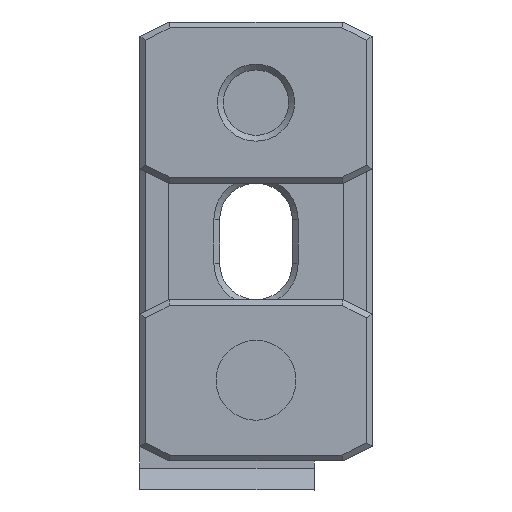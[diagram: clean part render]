
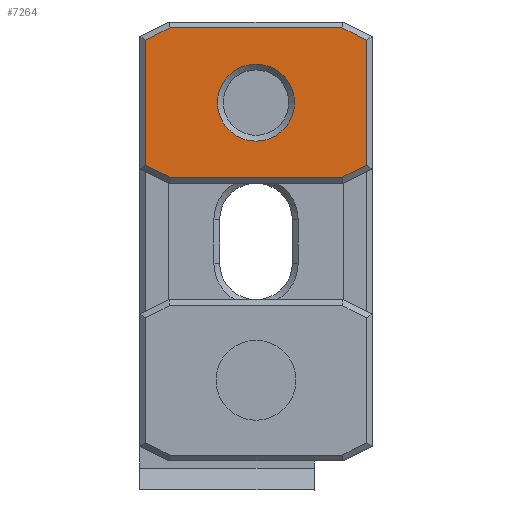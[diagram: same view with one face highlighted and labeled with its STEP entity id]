
A CAD part, left-side view. The second image highlights one B-rep face of the part: STEP entity #7264.
In plain terms, the highlighted planar face has unit normal (-1, 0, 0).
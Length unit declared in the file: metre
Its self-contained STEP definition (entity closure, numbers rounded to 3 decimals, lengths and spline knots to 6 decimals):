
#325=CIRCLE('',#7752,0.00265);
#2703=ORIENTED_EDGE('',*,*,#3793,.F.);
#2704=ORIENTED_EDGE('',*,*,#3795,.F.);
#2705=ORIENTED_EDGE('',*,*,#3796,.F.);
#2706=ORIENTED_EDGE('',*,*,#3797,.F.);
#2707=ORIENTED_EDGE('',*,*,#3798,.F.);
#2708=ORIENTED_EDGE('',*,*,#3799,.F.);
#2709=ORIENTED_EDGE('',*,*,#3800,.F.);
#2710=ORIENTED_EDGE('',*,*,#3801,.F.);
#2711=ORIENTED_EDGE('',*,*,#3802,.F.);
#3793=EDGE_CURVE('',#4479,#4479,#325,.T.);
#3795=EDGE_CURVE('',#4481,#4482,#5123,.T.);
#3796=EDGE_CURVE('',#4483,#4481,#5124,.T.);
#3797=EDGE_CURVE('',#4484,#4483,#5125,.T.);
#3798=EDGE_CURVE('',#4485,#4484,#5126,.T.);
#3799=EDGE_CURVE('',#4486,#4485,#5127,.T.);
#3800=EDGE_CURVE('',#4487,#4486,#5128,.T.);
#3801=EDGE_CURVE('',#4488,#4487,#5129,.T.);
#3802=EDGE_CURVE('',#4482,#4488,#5130,.T.);
#4479=VERTEX_POINT('',#13403);
#4481=VERTEX_POINT('',#13408);
#4482=VERTEX_POINT('',#13409);
#4483=VERTEX_POINT('',#13411);
#4484=VERTEX_POINT('',#13413);
#4485=VERTEX_POINT('',#13415);
#4486=VERTEX_POINT('',#13417);
#4487=VERTEX_POINT('',#13419);
#4488=VERTEX_POINT('',#13421);
#5123=LINE('',#13407,#5771);
#5124=LINE('',#13410,#5772);
#5125=LINE('',#13412,#5773);
#5126=LINE('',#13414,#5774);
#5127=LINE('',#13416,#5775);
#5128=LINE('',#13418,#5776);
#5129=LINE('',#13420,#5777);
#5130=LINE('',#13422,#5778);
#5771=VECTOR('',#9334,1.);
#5772=VECTOR('',#9335,1.);
#5773=VECTOR('',#9336,1.);
#5774=VECTOR('',#9337,1.);
#5775=VECTOR('',#9338,1.);
#5776=VECTOR('',#9339,1.);
#5777=VECTOR('',#9340,1.);
#5778=VECTOR('',#9341,1.);
#6204=EDGE_LOOP('',(#2703));
#6205=EDGE_LOOP('',(#2704,#2705,#2706,#2707,#2708,#2709,#2710,#2711));
#6636=FACE_BOUND('',#6204,.T.);
#6637=FACE_BOUND('',#6205,.T.);
#6857=PLANE('',#7754);
#7264=ADVANCED_FACE('',(#6636,#6637),#6857,.T.);
#7752=AXIS2_PLACEMENT_3D('',#13402,#9328,#9329);
#7754=AXIS2_PLACEMENT_3D('',#13406,#9332,#9333);
#9328=DIRECTION('',(-1.,0.,0.));
#9329=DIRECTION('',(0.,0.,-1.));
#9332=DIRECTION('',(-1.,0.,0.));
#9333=DIRECTION('',(0.,0.,-1.));
#9334=DIRECTION('',(0.,1.,0.));
#9335=DIRECTION('',(0.,0.894,-0.447));
#9336=DIRECTION('',(0.,0.,-1.));
#9337=DIRECTION('',(0.,-0.894,-0.447));
#9338=DIRECTION('',(0.,-1.,0.));
#9339=DIRECTION('',(0.,-0.894,0.447));
#9340=DIRECTION('',(0.,0.,1.));
#9341=DIRECTION('',(0.,0.894,0.447));
#13402=CARTESIAN_POINT('',(-0.022677,0.078331,-0.033601));
#13403=CARTESIAN_POINT('',(-0.022677,0.078331,-0.036251));
#13406=CARTESIAN_POINT('',(-0.022677,0.078331,-0.047151));
#13407=CARTESIAN_POINT('',(-0.022677,0.078331,-0.038751));
#13408=CARTESIAN_POINT('',(-0.022677,0.072425,-0.038751));
#13409=CARTESIAN_POINT('',(-0.022677,0.084236,-0.038751));
#13410=CARTESIAN_POINT('',(-0.022677,0.072189,-0.038633));
#13411=CARTESIAN_POINT('',(-0.022677,0.070731,-0.037904));
#13412=CARTESIAN_POINT('',(-0.022677,0.070731,-0.030826));
#13413=CARTESIAN_POINT('',(-0.022677,0.070731,-0.029298));
#13414=CARTESIAN_POINT('',(-0.022677,0.074409,-0.027459));
#13415=CARTESIAN_POINT('',(-0.022677,0.072425,-0.028451));
#13416=CARTESIAN_POINT('',(-0.022677,0.078331,-0.028451));
#13417=CARTESIAN_POINT('',(-0.022677,0.084236,-0.028451));
#13418=CARTESIAN_POINT('',(-0.022677,0.082252,-0.027459));
#13419=CARTESIAN_POINT('',(-0.022677,0.085931,-0.029298));
#13420=CARTESIAN_POINT('',(-0.022677,0.085931,-0.030826));
#13421=CARTESIAN_POINT('',(-0.022677,0.085931,-0.037904));
#13422=CARTESIAN_POINT('',(-0.022677,0.084472,-0.038633));
